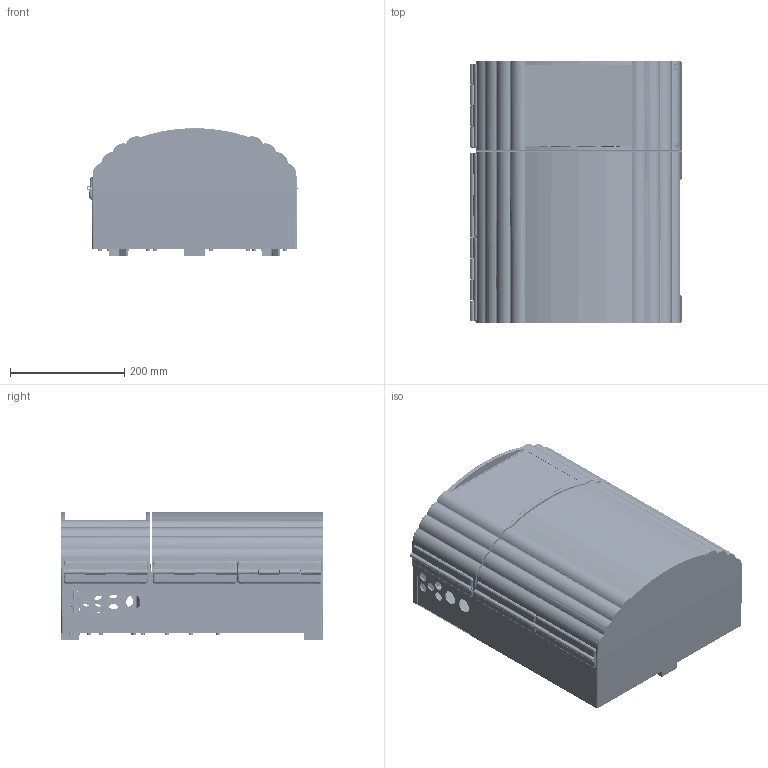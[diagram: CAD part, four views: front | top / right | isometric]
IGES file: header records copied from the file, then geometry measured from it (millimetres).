
Start section: SolidWorks IGES file using analytic representation for surfaces
Global section: file name: S:\Datentausch Entwicklung\Strobach\3D-Daten Gehäuse\Gehäuse-Testomat2000.IGS; native system: SolidWorks 2015; preprocessor: SolidWorks 2015; author: Doelling; date: 160427.082621; units: millimetre
Bounding box: 369 x 459 x 223 mm (x, y, z)
Surface area: 1538973 mm2 (no closed solid volume)
Topology: 0 solids, 0 shells, 2517 faces, 30449 edges, 30396 vertices
Faces by surface type: bspline 1467, revolution 1050
